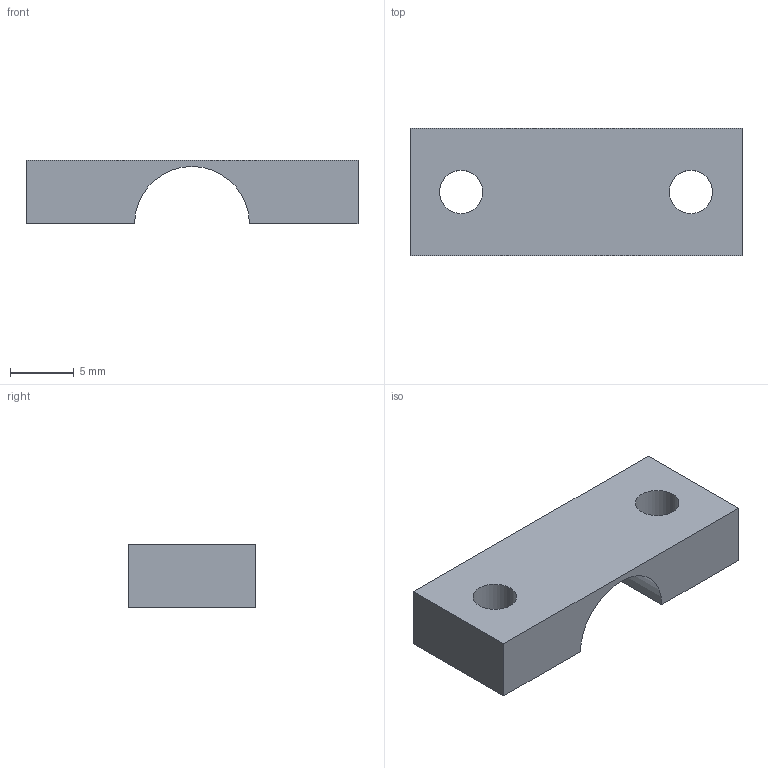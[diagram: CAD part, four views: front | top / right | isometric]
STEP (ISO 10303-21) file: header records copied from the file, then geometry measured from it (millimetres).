
FILE_DESCRIPTION(('Open CASCADE Model'),'2;1');
FILE_NAME('Open CASCADE Shape Model','2026-11-19T15:07:55',('Author'),( 'Open CASCADE'),'Open CASCADE STEP processor 8.0','Open CASCADE 8.0' ,'Unknown');
FILE_SCHEMA(('AUTOMOTIVE_DESIGN { 1 0 10303 214 1 1 1 1 }'));
Length unit declared in the file: millimetre
Products named in the file (1): Open CASCADE STEP translator 8.0 16
Bounding box: 26 x 10 x 5 mm (x, y, z)
Volume: 891.1 mm3; surface area: 938.3 mm2
Topology: 1 solids, 1 shells, 11 faces, 27 edges, 18 vertices
Faces by surface type: plane 7, cylinder 4
Full cylindrical faces by diameter (mm): 3.4 x2
Entity records: 698 total; most frequent: DIRECTION 113, CARTESIAN_POINT 111, LINE 65, VECTOR 65, ORIENTED_EDGE 54, PCURVE 54, DEFINITIONAL_REPRESENTATION 54, EDGE_CURVE 27
